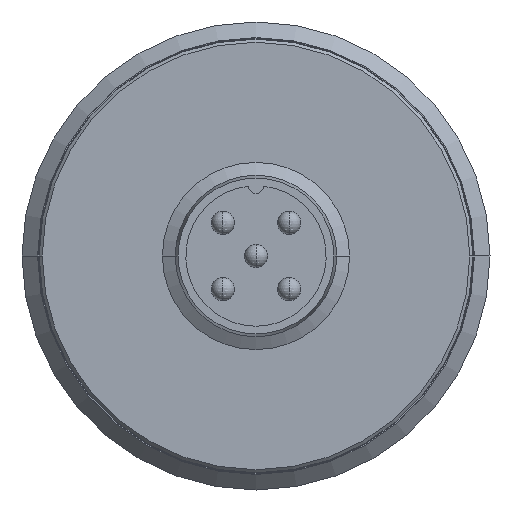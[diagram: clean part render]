
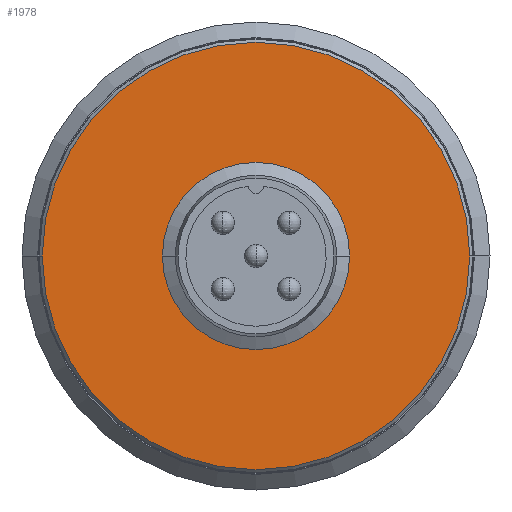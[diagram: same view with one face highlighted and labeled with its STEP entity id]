
A CAD part, left-side view. The second image highlights one B-rep face of the part: STEP entity #1978.
In plain terms, the highlighted planar face has unit normal (-1, 0, 0).
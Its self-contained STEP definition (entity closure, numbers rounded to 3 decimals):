
#426=CARTESIAN_POINT('',(-83.5,13.7,0.0));
#427=VERTEX_POINT('',#426);
#434=CARTESIAN_POINT('',(-83.5,-13.7,0.));
#435=VERTEX_POINT('',#434);
#436=CARTESIAN_POINT('',(-83.5,0.,0.0));
#437=DIRECTION('',(1.0,0.0,0.0));
#438=DIRECTION('',(0.0,1.0,0.0));
#439=AXIS2_PLACEMENT_3D('',#436,#437,#438);
#440=CIRCLE('',#439,13.7);
#441=EDGE_CURVE('',#427,#435,#440,.T.);
#508=CARTESIAN_POINT('',(-83.5,0.,5.7));
#509=VERTEX_POINT('',#508);
#535=CARTESIAN_POINT('',(-83.5,0.,-5.7));
#536=VERTEX_POINT('',#535);
#544=CARTESIAN_POINT('',(-83.5,0.,0.0));
#545=DIRECTION('',(1.0,0.0,0.0));
#546=DIRECTION('',(0.0,1.0,0.0));
#547=AXIS2_PLACEMENT_3D('',#544,#545,#546);
#548=CIRCLE('',#547,5.7);
#549=EDGE_CURVE('',#509,#536,#548,.T.);
#1936=CARTESIAN_POINT('',(-83.5,5.7,0.0));
#1937=VERTEX_POINT('',#1936);
#1938=CARTESIAN_POINT('',(-83.5,0.,0.0));
#1939=DIRECTION('',(1.0,0.0,0.0));
#1940=DIRECTION('',(0.0,1.0,0.0));
#1941=AXIS2_PLACEMENT_3D('',#1938,#1939,#1940);
#1942=CIRCLE('',#1941,5.7);
#1943=EDGE_CURVE('',#1937,#509,#1942,.T.);
#1945=CARTESIAN_POINT('',(-83.5,0.,0.0));
#1946=DIRECTION('',(1.0,0.0,0.0));
#1947=DIRECTION('',(0.0,1.0,0.0));
#1948=AXIS2_PLACEMENT_3D('',#1945,#1946,#1947);
#1949=CIRCLE('',#1948,5.7);
#1950=EDGE_CURVE('',#536,#1937,#1949,.T.);
#1958=CARTESIAN_POINT('',(-83.5,9.7,0.0));
#1959=DIRECTION('',(-1.0,0.0,0.0));
#1960=DIRECTION('',(0.0,0.0,1.0));
#1961=AXIS2_PLACEMENT_3D('',#1958,#1959,#1960);
#1962=PLANE('',#1961);
#1963=ORIENTED_EDGE('',*,*,#441,.F.);
#1964=CARTESIAN_POINT('',(-83.5,0.,0.0));
#1965=DIRECTION('',(1.0,0.0,0.0));
#1966=DIRECTION('',(0.0,1.0,0.0));
#1967=AXIS2_PLACEMENT_3D('',#1964,#1965,#1966);
#1968=CIRCLE('',#1967,13.7);
#1969=EDGE_CURVE('',#435,#427,#1968,.T.);
#1970=ORIENTED_EDGE('',*,*,#1969,.F.);
#1971=EDGE_LOOP('',(#1963,#1970));
#1972=FACE_OUTER_BOUND('',#1971,.T.);
#1973=ORIENTED_EDGE('',*,*,#1943,.T.);
#1974=ORIENTED_EDGE('',*,*,#549,.T.);
#1975=ORIENTED_EDGE('',*,*,#1950,.T.);
#1976=EDGE_LOOP('',(#1973,#1974,#1975));
#1977=FACE_BOUND('',#1976,.T.);
#1978=ADVANCED_FACE('',(#1972,#1977),#1962,.T.);
